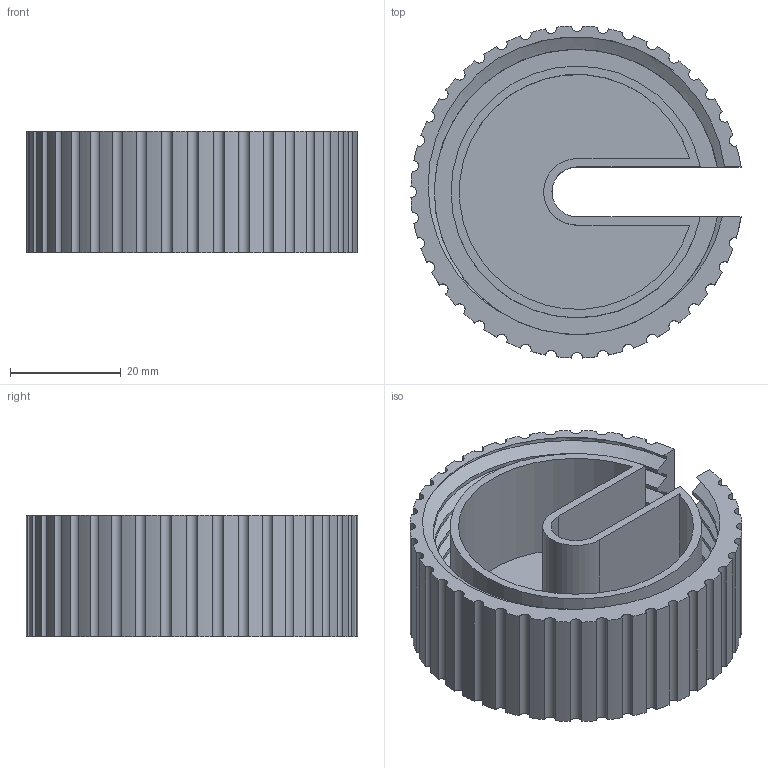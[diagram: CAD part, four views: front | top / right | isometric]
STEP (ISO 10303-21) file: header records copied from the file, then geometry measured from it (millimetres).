
FILE_DESCRIPTION(/* description */ (''),/* implementation_level */ '2;1');
FILE_NAME(/* name */ 'D:/Dokumenty/3D/Luke''s 3D/Projects/Spool winder v3/STEP/Adapter screw.step',/* time_stamp */ '2021-11-14T12:38:52+01:00',/* author */ (''),/* organization */ (''),/* preprocessor_version */ 'ST-DEVELOPER v18.1',/* originating_system */ 'Autodesk Translation Framework v10.10.0.1391',/* authorisation */ '');
FILE_SCHEMA (('AUTOMOTIVE_DESIGN { 1 0 10303 214 3 1 1 }'));
Length unit declared in the file: millimetre
Products named in the file (2): Bearing socket adapter 2; Adapter screw
Assembly tree (1 placements, depth 2):
  Bearing socket adapter 2
    Adapter screw
Bounding box: 59.64 x 59.97 x 22 mm (x, y, z)
Volume: 20041.6 mm3; surface area: 22703.9 mm2
Topology: 1 solids, 1 shells, 113 faces, 330 edges, 220 vertices
Faces by surface type: cylinder 91, bspline 13, plane 9
Entity records: 5850 total; most frequent: CARTESIAN_POINT 2773, ORIENTED_EDGE 660, DIRECTION 646, EDGE_CURVE 330, AXIS2_PLACEMENT_3D 265, VERTEX_POINT 220, CIRCLE 162, LINE 116
